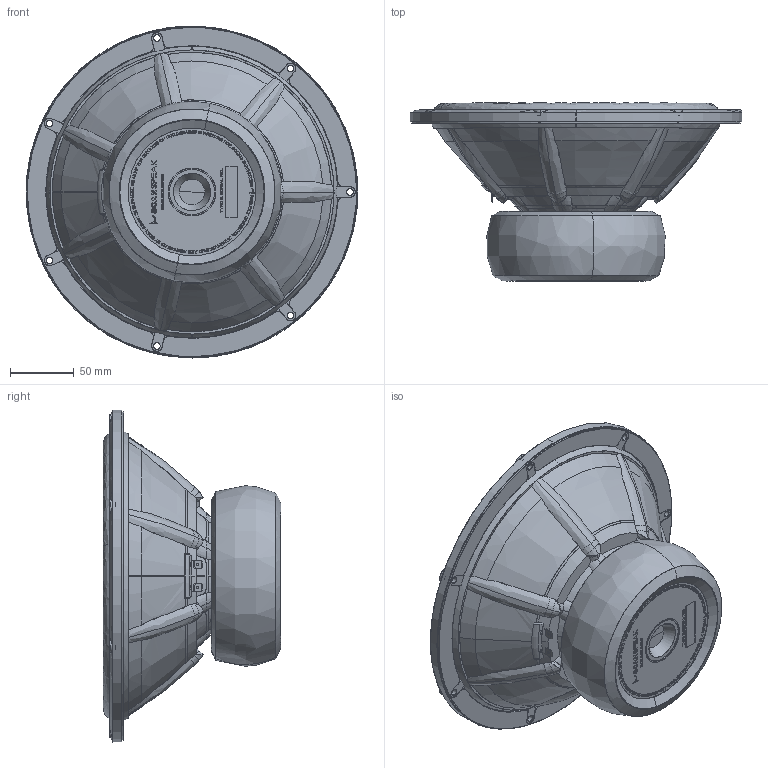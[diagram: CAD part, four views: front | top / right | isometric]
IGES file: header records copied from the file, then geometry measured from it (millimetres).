
Start section: SolidWorks IGES file using analytic representation for surfaces
Global section: file name: W:\TT\26W\26W-8867T00.IGS; native system: SolidWorks 2019; preprocessor: SolidWorks 2019; author: mhn; date: 201125.104804; units: millimetre
Bounding box: 260 x 139.26 x 260 mm (x, y, z)
Surface area: 280688.4 mm2 (no closed solid volume)
Topology: 0 solids, 0 shells, 3063 faces, 31875 edges, 31870 vertices
Faces by surface type: bspline 2795, revolution 268
